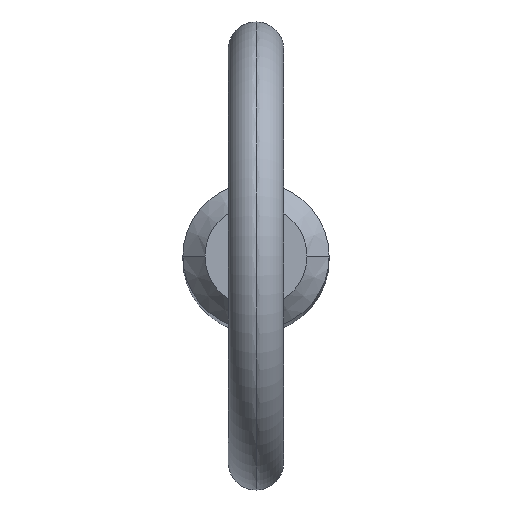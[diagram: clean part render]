
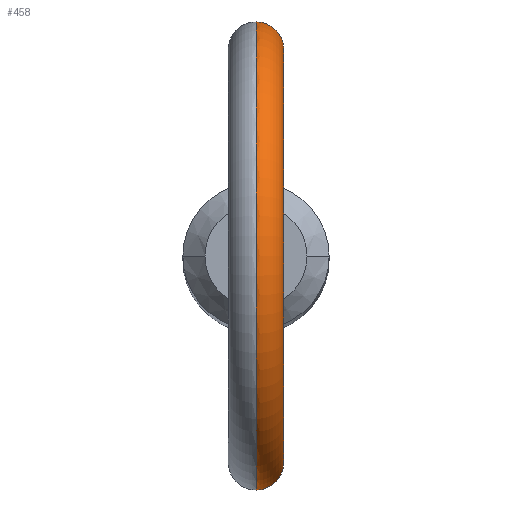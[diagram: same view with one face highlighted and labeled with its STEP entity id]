
A CAD part, top view. The second image highlights one B-rep face of the part: STEP entity #458.
In plain terms, the highlighted toroidal (fillet/blend) face has major radius 11.2 mm and minor radius 1.5 mm.
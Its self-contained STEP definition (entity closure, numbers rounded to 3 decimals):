
#1 = CARTESIAN_POINT ( 'NONE',  ( 0.693, -3.905, 99.89 ) ) ;
#24 = CARTESIAN_POINT ( 'NONE',  ( 1.344, 3.731, 100.503 ) ) ;
#26 = CARTESIAN_POINT ( 'NONE',  ( 1.47, 3.682, 100.892 ) ) ;
#37 = AXIS2_PLACEMENT_3D ( 'NONE', #182, #448, #299 ) ;
#38 = CARTESIAN_POINT ( 'NONE',  ( 1.186, -3.786, 102.259 ) ) ;
#48 = CARTESIAN_POINT ( 'NONE',  ( 1.471, -3.682, 100.894 ) ) ;
#72 = CARTESIAN_POINT ( 'NONE',  ( 0.204, 3.965, 99.735 ) ) ;
#75 = ORIENTED_EDGE ( 'NONE', *, *, #281, .T. ) ;
#76 = DIRECTION ( 'NONE',  ( 0., 0., -1. ) ) ;
#79 = CARTESIAN_POINT ( 'NONE',  ( 1.404, -3.708, 101.801 ) ) ;
#83 = VERTEX_POINT ( 'NONE', #139 ) ;
#85 = CARTESIAN_POINT ( 'NONE',  ( 0., 3.965, 102.947 ) ) ;
#87 = DIRECTION ( 'NONE',  ( 1., 0., 0. ) ) ;
#91 = CARTESIAN_POINT ( 'NONE',  ( 1.346, -3.73, 100.508 ) ) ;
#94 = CARTESIAN_POINT ( 'NONE',  ( 0.205, -3.965, 99.735 ) ) ;
#95 = CARTESIAN_POINT ( 'NONE',  ( 0., -3.965, 102.947 ) ) ;
#96 = CARTESIAN_POINT ( 'NONE',  ( 0.409, -3.948, 99.774 ) ) ;
#109 = CARTESIAN_POINT ( 'NONE',  ( 1.499, 3.671, 101.094 ) ) ;
#116 = CARTESIAN_POINT ( 'NONE',  ( 0.769, 3.894, 102.701 ) ) ;
#120 = CIRCLE ( 'NONE', #37, 12.7 ) ;
#128 = CARTESIAN_POINT ( 'NONE',  ( 1.291, -3.75, 102.083 ) ) ;
#129 = CARTESIAN_POINT ( 'NONE',  ( 1.479, -3.679, 101.507 ) ) ;
#138 = CARTESIAN_POINT ( 'NONE',  ( 0.949, -3.851, 100.049 ) ) ;
#139 = CARTESIAN_POINT ( 'NONE',  ( 0., -3.965, 99.735 ) ) ;
#160 = CARTESIAN_POINT ( 'NONE',  ( 1.441, 3.695, 101.708 ) ) ;
#169 = CARTESIAN_POINT ( 'NONE',  ( 1.493, -3.673, 101.404 ) ) ;
#182 = CARTESIAN_POINT ( 'NONE',  ( 0., 0., 111.8 ) ) ;
#189 = CARTESIAN_POINT ( 'NONE',  ( 0.949, 3.851, 100.049 ) ) ;
#190 = EDGE_LOOP ( 'NONE', ( #336, #75, #309, #509 ) ) ;
#193 = CARTESIAN_POINT ( 'NONE',  ( 0., 0., 111.8 ) ) ;
#198 = CARTESIAN_POINT ( 'NONE',  ( 0.205, -3.961, 102.934 ) ) ;
#206 = VERTEX_POINT ( 'NONE', #95 ) ;
#221 = CARTESIAN_POINT ( 'NONE',  ( 0., 3.965, 99.735 ) ) ;
#226 = CARTESIAN_POINT ( 'NONE',  ( 1.503, 3.669, 101.198 ) ) ;
#227 = CARTESIAN_POINT ( 'NONE',  ( 1.291, 3.75, 102.084 ) ) ;
#228 = FACE_OUTER_BOUND ( 'NONE', #190, .T. ) ;
#239 = CARTESIAN_POINT ( 'NONE',  ( 0.102, -3.965, 102.947 ) ) ;
#262 = CARTESIAN_POINT ( 'NONE',  ( 1.236, 3.77, 100.329 ) ) ;
#264 = AXIS2_PLACEMENT_3D ( 'NONE', #193, #493, #76 ) ;
#265 = CARTESIAN_POINT ( 'NONE',  ( 0.782, 3.888, 99.937 ) ) ;
#269 = CARTESIAN_POINT ( 'NONE',  ( 1.447, 3.692, 100.793 ) ) ;
#270 = CARTESIAN_POINT ( 'NONE',  ( 0., 3.965, 102.947 ) ) ;
#271 = CARTESIAN_POINT ( 'NONE',  ( 0.498, -3.935, 102.844 ) ) ;
#274 = CARTESIAN_POINT ( 'NONE',  ( 0., 0., 111.8 ) ) ;
#276 = CARTESIAN_POINT ( 'NONE',  ( 0.77, -3.894, 102.7 ) ) ;
#280 = CARTESIAN_POINT ( 'NONE',  ( 0.782, -3.888, 99.937 ) ) ;
#281 = EDGE_CURVE ( 'NONE', #484, #83, #120, .T. ) ;
#285 = CARTESIAN_POINT ( 'NONE',  ( 0., -3.965, 99.735 ) ) ;
#299 = DIRECTION ( 'NONE',  ( 0., 0., -1. ) ) ;
#303 = CARTESIAN_POINT ( 'NONE',  ( 0.927, 3.858, 102.567 ) ) ;
#305 = CARTESIAN_POINT ( 'NONE',  ( 0.691, 3.905, 99.889 ) ) ;
#306 = CARTESIAN_POINT ( 'NONE',  ( 1.026, 3.831, 100.113 ) ) ;
#309 = ORIENTED_EDGE ( 'NONE', *, *, #511, .F. ) ;
#310 = CARTESIAN_POINT ( 'NONE',  ( 0.925, -3.858, 102.568 ) ) ;
#328 = CARTESIAN_POINT ( 'NONE',  ( 1.447, -3.692, 100.793 ) ) ;
#336 = ORIENTED_EDGE ( 'NONE', *, *, #368, .F. ) ;
#339 = EDGE_CURVE ( 'NONE', #469, #206, #488, .T. ) ;
#345 = CARTESIAN_POINT ( 'NONE',  ( 0.206, 3.965, 102.947 ) ) ;
#347 = CARTESIAN_POINT ( 'NONE',  ( 0.41, 3.948, 99.774 ) ) ;
#356 = DIRECTION ( 'NONE',  ( 0., 0., -1. ) ) ;
#358 = CARTESIAN_POINT ( 'NONE',  ( 1.237, -3.77, 100.331 ) ) ;
#362 = CARTESIAN_POINT ( 'NONE',  ( 1.499, -3.671, 101.097 ) ) ;
#363 = CARTESIAN_POINT ( 'NONE',  ( 1.028, -3.83, 100.115 ) ) ;
#368 = EDGE_CURVE ( 'NONE', #484, #469, #487, .T. ) ;
#377 = TOROIDAL_SURFACE ( 'NONE', #412, 11.2, 1.5 ) ;
#380 = CARTESIAN_POINT ( 'NONE',  ( 1.185, 3.786, 102.26 ) ) ;
#385 = CARTESIAN_POINT ( 'NONE',  ( 1.434, -3.697, 101.705 ) ) ;
#390 = CARTESIAN_POINT ( 'NONE',  ( 0.404, -3.946, 102.882 ) ) ;
#412 = AXIS2_PLACEMENT_3D ( 'NONE', #274, #87, #356 ) ;
#414 = CARTESIAN_POINT ( 'NONE',  ( 0.411, 3.948, 102.891 ) ) ;
#416 = CARTESIAN_POINT ( 'NONE',  ( 1.488, 3.675, 101.505 ) ) ;
#448 = DIRECTION ( 'NONE',  ( 1., 0., 0. ) ) ;
#458 = ADVANCED_FACE ( 'NONE', ( #228 ), #377, .T. ) ;
#469 = VERTEX_POINT ( 'NONE', #85 ) ;
#483 = B_SPLINE_CURVE_WITH_KNOTS ( 'NONE', 3,
 ( #505, #239, #198, #390, #271, #276, #310, #38, #128, #79, #385, #129, #169, #513, #362, #48, #328, #91, #358, #363, #138, #280, #1, #96, #94, #285 ),
 .UNSPECIFIED., .F., .F.,
 ( 4, 2, 2, 2, 2, 2, 2, 2, 2, 2, 2, 2, 4 ),
 ( 0.004, 0.005, 0.005, 0.005, 0.006, 0.006, 0.007, 0.007, 0.007, 0.008, 0.008, 0.008, 0.009 ),
 .UNSPECIFIED. ) ;
#484 = VERTEX_POINT ( 'NONE', #508 ) ;
#487 = B_SPLINE_CURVE_WITH_KNOTS ( 'NONE', 3,
 ( #221, #72, #347, #305, #265, #189, #306, #262, #24, #269, #26, #109, #226, #416, #160, #227, #380, #303, #116, #414, #345, #270 ),
 .UNSPECIFIED., .F., .F.,
 ( 4, 2, 2, 2, 2, 2, 2, 2, 2, 2, 4 ),
 ( 0.001, 0.001, 0.002, 0.002, 0.003, 0.003, 0.003, 0.004, 0.004, 0.005, 0.006 ),
 .UNSPECIFIED. ) ;
#488 = CIRCLE ( 'NONE', #264, 9.7 ) ;
#493 = DIRECTION ( 'NONE',  ( 1., 0., 0. ) ) ;
#505 = CARTESIAN_POINT ( 'NONE',  ( 0., -3.965, 102.947 ) ) ;
#508 = CARTESIAN_POINT ( 'NONE',  ( 0., 3.965, 99.735 ) ) ;
#509 = ORIENTED_EDGE ( 'NONE', *, *, #339, .F. ) ;
#511 = EDGE_CURVE ( 'NONE', #206, #83, #483, .T. ) ;
#513 = CARTESIAN_POINT ( 'NONE',  ( 1.503, -3.669, 101.199 ) ) ;
